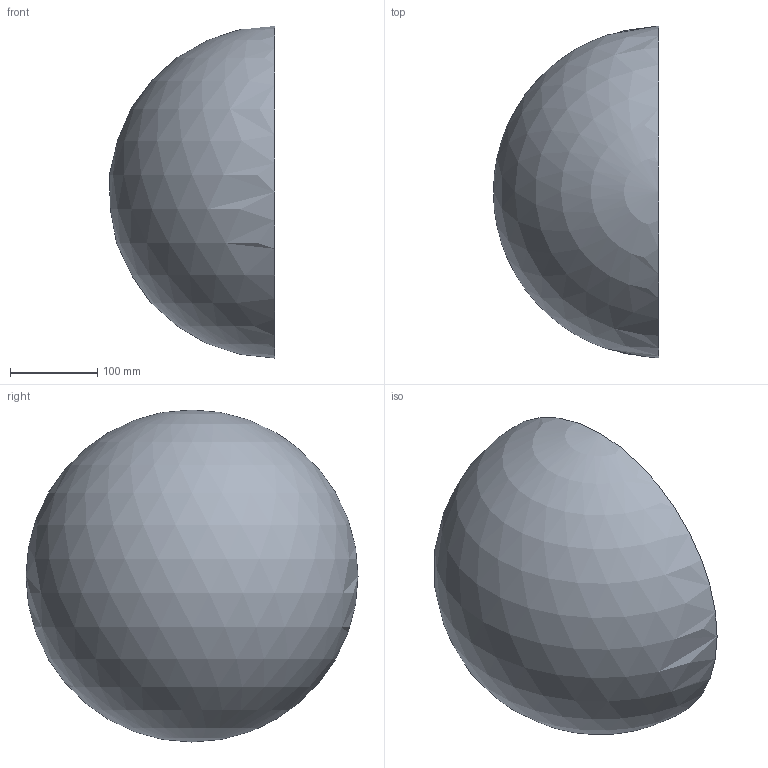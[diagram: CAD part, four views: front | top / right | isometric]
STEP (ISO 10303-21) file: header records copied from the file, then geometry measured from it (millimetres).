
FILE_DESCRIPTION (( 'STEP AP214' ), '1' );
FILE_NAME ('Piece_4.STEP', '2014-08-29T19:25:24', ( 'ebrady' ), ( '' ), 'SwSTEP 2.0', 'SolidWorks 2013', '' );
FILE_SCHEMA (( 'AUTOMOTIVE_DESIGN' ));
Length unit declared in the file: millimetre
Products named in the file (2): Piece_4; Shell
Assembly tree (1 placements, depth 2):
  Piece_4
    Shell
Bounding box: 189.46 x 381 x 381 mm (x, y, z)
Volume: 10189042.9 mm3; surface area: 392698.3 mm2
Topology: 1 solids, 1 shells, 4 faces, 11 edges, 6 vertices
Faces by surface type: sphere 3, plane 1
Entity records: 152 total; most frequent: DIRECTION 24, CARTESIAN_POINT 16, AXIS2_PLACEMENT_3D 12, ORIENTED_EDGE 10, CIRCLE 5, EDGE_LOOP 5, EDGE_CURVE 5, FACE_OUTER_BOUND 4
